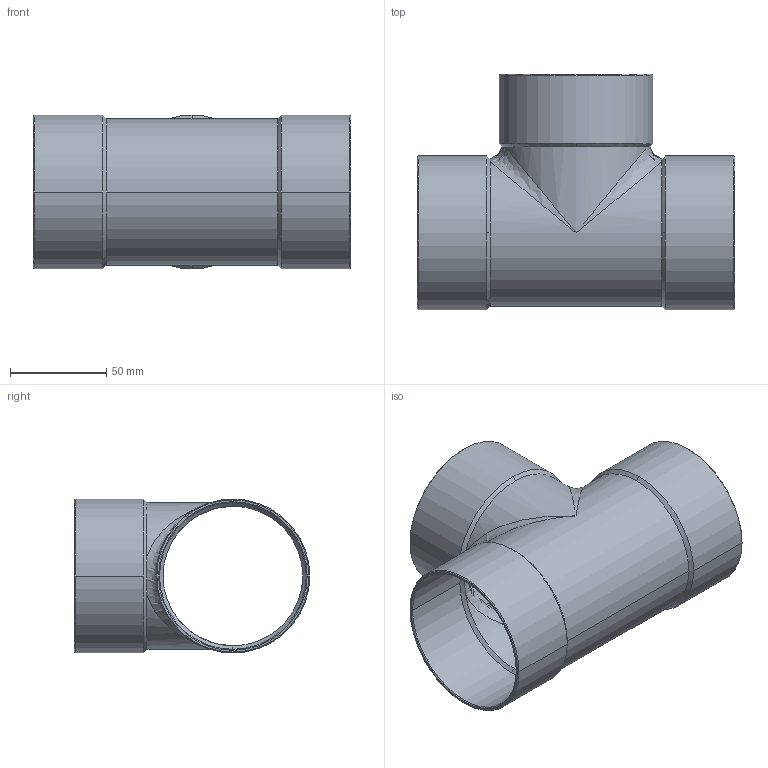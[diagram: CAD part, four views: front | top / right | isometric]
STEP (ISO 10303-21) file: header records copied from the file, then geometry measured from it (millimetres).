
FILE_DESCRIPTION((''),'2;1');
FILE_NAME('P:\Bouwmaten\z-maattekeningen 3D\5000\5130\rechte Ts\513076.stp','2005-10-26T15:40:04',('Kris'),(''),'Autodesk Inventor 8','Autodesk Inventor 8','');
FILE_SCHEMA(('AUTOMOTIVE_DESIGN { 1 0 10303 214 1 1 1 1 }'));
Length unit declared in the file: millimetre
Products named in the file (1): 513076
Bounding box: 164.5 x 122.15 x 79.8 mm (x, y, z)
Volume: 91044.9 mm3; surface area: 96987.2 mm2
Topology: 1 solids, 1 shells, 51 faces, 142 edges, 84 vertices
Faces by surface type: cone 24, cylinder 20, bspline 4, plane 3
Entity records: 2199 total; most frequent: CARTESIAN_POINT 858, DIRECTION 310, ORIENTED_EDGE 268, AXIS2_PLACEMENT_3D 136, EDGE_CURVE 134, VERTEX_POINT 84, CIRCLE 72, EDGE_LOOP 54
